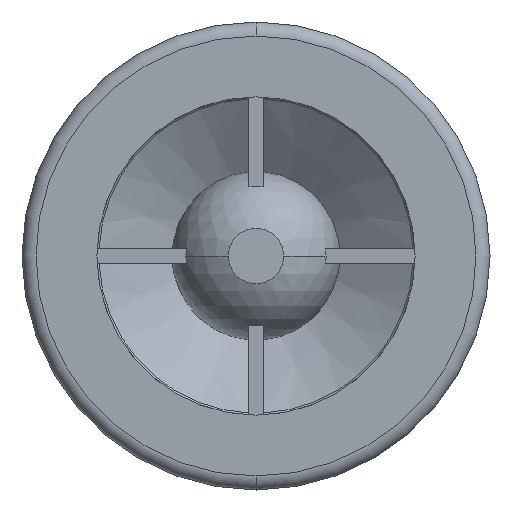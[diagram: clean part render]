
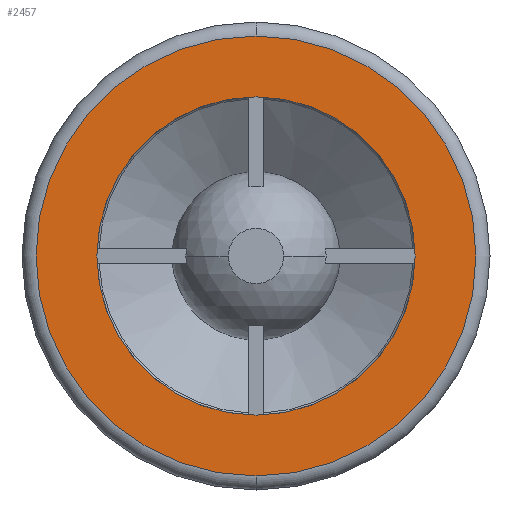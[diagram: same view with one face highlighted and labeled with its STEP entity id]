
A CAD part, front view. The second image highlights one B-rep face of the part: STEP entity #2457.
In plain terms, the highlighted planar face has unit normal (0, -1, 0).
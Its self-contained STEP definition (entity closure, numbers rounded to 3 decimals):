
#537 = VERTEX_POINT ( 'NONE', #1811 ) ;
#1811 = CARTESIAN_POINT ( 'NONE',  ( 0., 0., 17. ) ) ;
#2454 = ORIENTED_EDGE ( 'NONE', *, *, #2501, .T. ) ;
#2457 = ADVANCED_FACE ( 'NONE', ( #4462, #4458 ), #4457, .F. ) ;
#2472 = EDGE_LOOP ( 'NONE', ( #2454, #2509 ) ) ;
#2497 = EDGE_LOOP ( 'NONE', ( #2498, #2505 ) ) ;
#2498 = ORIENTED_EDGE ( 'NONE', *, *, #3448, .F. ) ;
#2501 = EDGE_CURVE ( 'NONE', #3782, #3858, #4527, .T. ) ;
#2505 = ORIENTED_EDGE ( 'NONE', *, *, #7916, .F. ) ;
#2509 = ORIENTED_EDGE ( 'NONE', *, *, #4041, .T. ) ;
#3448 = EDGE_CURVE ( 'NONE', #7915, #537, #6227, .T. ) ;
#3782 = VERTEX_POINT ( 'NONE', #6829 ) ;
#3858 = VERTEX_POINT ( 'NONE', #6828 ) ;
#4041 = EDGE_CURVE ( 'NONE', #3858, #3782, #6827, .T. ) ;
#4452 = DIRECTION ( 'NONE',  ( 0., 0., 1. ) ) ;
#4453 = DIRECTION ( 'NONE',  ( 0., 1., 0. ) ) ;
#4454 = CARTESIAN_POINT ( 'NONE',  ( -17., 0., 0. ) ) ;
#4456 = AXIS2_PLACEMENT_3D ( 'NONE', #4454, #4453, #4452 ) ;
#4457 = PLANE ( 'NONE',  #4456 ) ;
#4458 = FACE_BOUND ( 'NONE', #2497, .T. ) ;
#4462 = FACE_OUTER_BOUND ( 'NONE', #2472, .T. ) ;
#4523 = DIRECTION ( 'NONE',  ( 0., 0., 1. ) ) ;
#4524 = DIRECTION ( 'NONE',  ( 0., -1., 0. ) ) ;
#4525 = CARTESIAN_POINT ( 'NONE',  ( 0., 0., 0. ) ) ;
#4526 = AXIS2_PLACEMENT_3D ( 'NONE', #4525, #4524, #4523 ) ;
#4527 = CIRCLE ( 'NONE', #4526, 23.5 ) ;
#6223 = DIRECTION ( 'NONE',  ( 0., 0., -1. ) ) ;
#6224 = DIRECTION ( 'NONE',  ( 0., -1., 0. ) ) ;
#6225 = CARTESIAN_POINT ( 'NONE',  ( 0., 0., 0. ) ) ;
#6226 = AXIS2_PLACEMENT_3D ( 'NONE', #6225, #6224, #6223 ) ;
#6227 = CIRCLE ( 'NONE', #6226, 17. ) ;
#6823 = DIRECTION ( 'NONE',  ( 0., 0., 1. ) ) ;
#6824 = DIRECTION ( 'NONE',  ( 0., -1., 0. ) ) ;
#6825 = CARTESIAN_POINT ( 'NONE',  ( 0., 0., 0. ) ) ;
#6826 = AXIS2_PLACEMENT_3D ( 'NONE', #6825, #6824, #6823 ) ;
#6827 = CIRCLE ( 'NONE', #6826, 23.5 ) ;
#6828 = CARTESIAN_POINT ( 'NONE',  ( 0., 0., -23.5 ) ) ;
#6829 = CARTESIAN_POINT ( 'NONE',  ( 0., 0., 23.5 ) ) ;
#7003 = DIRECTION ( 'NONE',  ( 0., 0., -1. ) ) ;
#7004 = DIRECTION ( 'NONE',  ( 0., -1., 0. ) ) ;
#7005 = CARTESIAN_POINT ( 'NONE',  ( 0., 0., 0. ) ) ;
#7006 = AXIS2_PLACEMENT_3D ( 'NONE', #7005, #7004, #7003 ) ;
#7007 = CIRCLE ( 'NONE', #7006, 17. ) ;
#7008 = CARTESIAN_POINT ( 'NONE',  ( 0., 0., -17. ) ) ;
#7915 = VERTEX_POINT ( 'NONE', #7008 ) ;
#7916 = EDGE_CURVE ( 'NONE', #537, #7915, #7007, .T. ) ;
